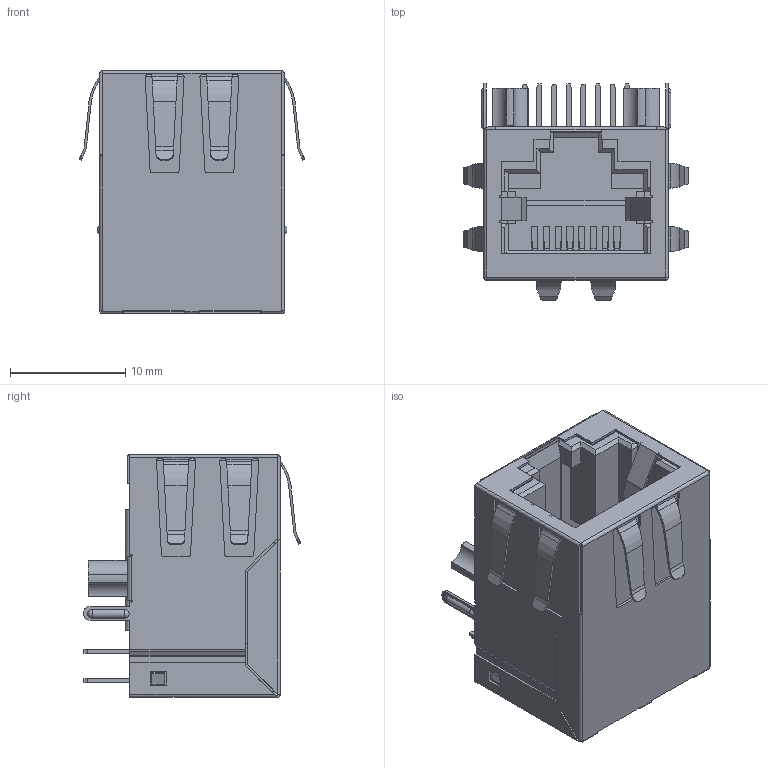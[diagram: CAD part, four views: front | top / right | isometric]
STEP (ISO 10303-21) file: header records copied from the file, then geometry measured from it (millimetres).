
FILE_DESCRIPTION((''),'2;1');
FILE_NAME('DGKYD111Q362DG4A1D2','2022-10-21T16:04:07',('Administrator'),(''),'CREO PARAMETRIC BY PTC INC, 2019010','CREO PARAMETRIC BY PTC INC, 2019010','');
FILE_SCHEMA(('CONFIG_CONTROL_DESIGN'));
Length unit declared in the file: millimetre
Products named in the file (1): DGKYD111Q362DG4A1D2
Bounding box: 19.58 x 18.89 x 21.1 mm (x, y, z)
Volume: 1977.5 mm3; surface area: 6600.1 mm2
Topology: 1 solids, 3 shells, 1335 faces, 4013 edges, 2637 vertices
Faces by surface type: plane 1035, cylinder 232, extrusion 64, sphere 4
Entity records: 47511 total; most frequent: CARTESIAN_POINT 11398, ORIENTED_EDGE 8026, DIRECTION 6783, EDGE_CURVE 4013, VECTOR 3331, LINE 3267, VERTEX_POINT 2637, AXIS2_PLACEMENT_3D 1726
